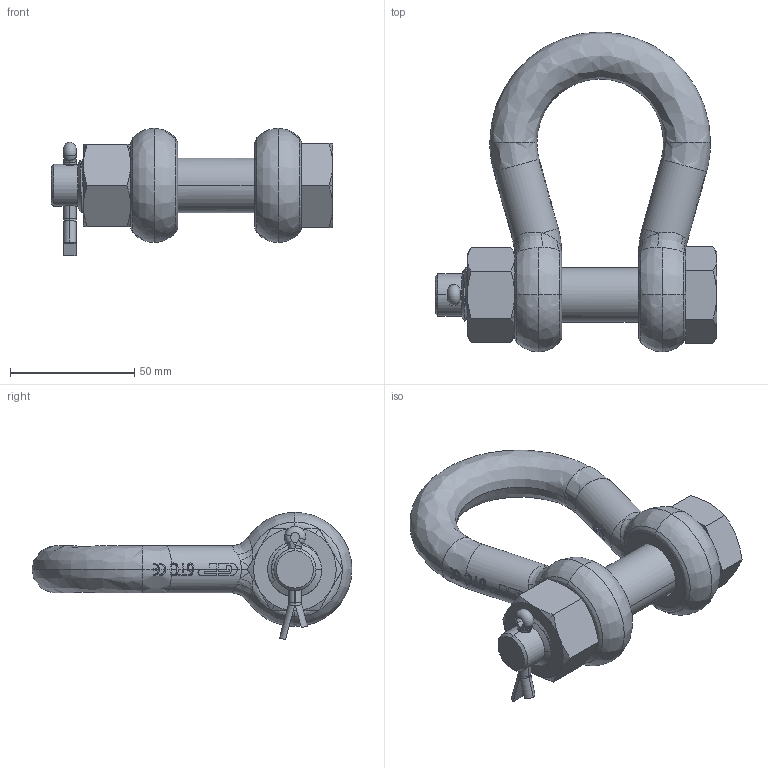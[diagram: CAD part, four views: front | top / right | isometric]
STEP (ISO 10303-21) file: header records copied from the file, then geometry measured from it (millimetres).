
FILE_DESCRIPTION (( 'STEP AP203' ), '1' );
FILE_NAME ('SUGHMB19.STEP', '2009-08-26T14:04:16', ( '.' ), ( '.' ), 'SwSTEP 2.0', 'SolidWorks 2009', '' );
FILE_SCHEMA (( 'CONFIG_CONTROL_DESIGN' ));
Length unit declared in the file: millimetre
Products named in the file (5): 7_2; 7_3; 7; 7_1; SUGHMB19
Assembly tree (4 placements, depth 2):
  SUGHMB19
    7
    7_3
    7_2
    7_1
Bounding box: 113.5 x 129 x 51.32 mm (x, y, z)
Volume: 154275.8 mm3; surface area: 40007.8 mm2
Topology: 4 solids, 4 shells, 681 faces, 1876 edges, 1211 vertices
Faces by surface type: bspline 268, plane 253, cylinder 126, cone 29, torus 5
Entity records: 36469 total; most frequent: CARTESIAN_POINT 21343, ORIENTED_EDGE 3736, DIRECTION 2017, EDGE_CURVE 1868, VERTEX_POINT 1211, VECTOR 811, LINE 811, EDGE_LOOP 705
